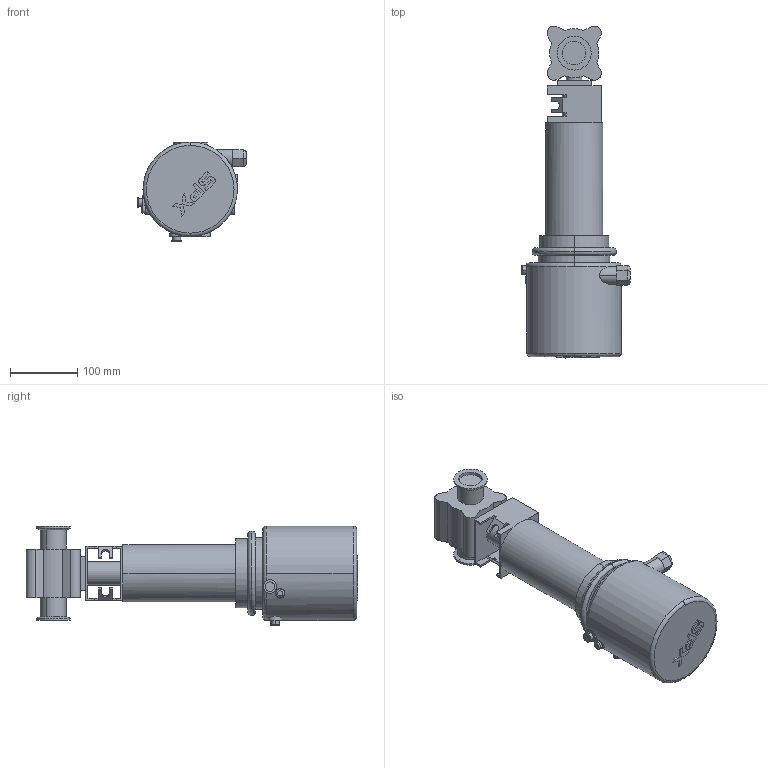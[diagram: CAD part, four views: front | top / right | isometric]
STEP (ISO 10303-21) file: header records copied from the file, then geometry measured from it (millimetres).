
FILE_DESCRIPTION(('Creo Elements/Direct Modeling STEP Export'),'2;1');
FILE_NAME('BLV1-1.5T-NC-12CL-CU4.stp','2019-05-10T 8:04:25',(''),(''),'Creo Elements/Direct Modeling STEP processor for AP214 (Solid Model)','Creo Elements/Direct Modeling 19.0F 14-Feb-2017 (C) Parametric Technology GmbH','');
FILE_SCHEMA(('AUTOMOTIVE_DESIGN { 1 0 10303 214 1 1 1 1 }'));
Length unit declared in the file: millimetre
Products named in the file (2): BLV1-1.5T-NC-12CL-CU4
Assembly tree (1 placements, depth 2):
  BLV1-1.5T-NC-12CL-CU4
    BLV1-1.5T-NC-12CL-CU4
Bounding box: 161.4 x 492.24 x 148 mm (x, y, z)
Volume: 4049682.7 mm3; surface area: 252886.7 mm2
Topology: 1 solids, 1 shells, 235 faces, 601 edges, 392 vertices
Faces by surface type: cylinder 117, plane 104, torus 10, cone 4
Entity records: 10067 total; most frequent: CARTESIAN_POINT 4427, ORIENTED_EDGE 1204, DIRECTION 1110, EDGE_CURVE 602, AXIS2_PLACEMENT_3D 412, VERTEX_POINT 392, VECTOR 286, LINE 286
